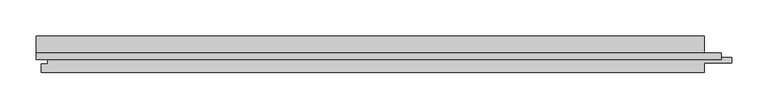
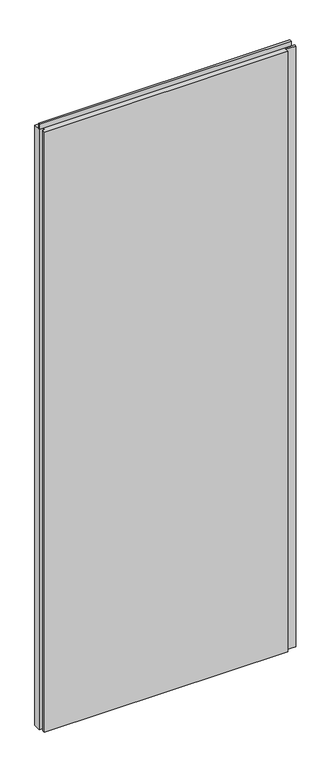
"""IFC4 building model written with IfcOpenShell, lengths in millimetres: plate geometry, Trimo_Qbiss Screen_Normal Panel-VERTICAL : HR - B."""

from ifc_helpers import new_model, si_unit, frame, origin, place, context, project, spatial, polyline, outline, extrude, source, transform, mapped, element, save


def plate_e0ff1487(model_context):
    return source(origin(), model_context, "Body", "SweptSolid", [
        extrude(outline(polyline([(448.3, 97.0), (448.3, 102.6), (469.3, 102.6), (469.3, 97.0), (448.3, 97.0)])), frame((0.0, 0.0, 12.5), z_axis=(0.0, 0.0, 1.0), x_axis=(1.0, 0.0, 0.0)), (0.0, 0.0, 1.0), 2375.0),
        extrude(outline(polyline([(-470.3, 93.9), (-470.3, 102.6), (470.3, 102.6), (470.3, 93.9), (-470.3, 93.9)])), frame((0.0, 0.0, 2390.5), z_axis=(0.0, 0.0, 1.0), x_axis=(1.0, 0.0, 0.0)), (0.0, 0.0, 1.0), 19.0),
        extrude(outline(polyline([(447.3, 97.0), (484.8, 97.0), (484.8, 89.0), (447.3, 89.0), (447.3, 76.0), (-463.3, 76.0), (-463.3, 88.0), (-454.8, 88.0), (-454.8, 98.0), (-470.3, 98.0), (-470.3, 126.0), (447.3, 126.0), (447.3, 97.0)])), frame((0.0, 0.0, 12.5), z_axis=(0.0, 0.0, 1.0), x_axis=(1.0, 0.0, 0.0)), (0.0, 0.0, 1.0), 2375.0),
    ])


if __name__ == "__main__":
    model = new_model("IFC4")
    model_context = context("Model", 3, world=origin())
    ifc_project = project(units=[si_unit("LENGTHUNIT", "METRE", prefix="MILLI")], contexts=[model_context])
    site = spatial("IfcSite", under=ifc_project)
    building = spatial("IfcBuilding", under=site)
    placement = place(None, origin())
    plate_shape = plate_e0ff1487(model_context)
    element("IfcPlate", 1, ObjectType="Trimo_Qbiss Screen_Normal Panel-VERTICAL : HR - B", at=placement, inside=building, context=model_context, shape_type="MappedRepresentation", body=[
        mapped(plate_shape, transform((0.0, 0.0, 0.0), x_axis=(1.0, 0.0, 0.0), y_axis=(0.0, 1.0, 0.0), z_axis=(0.0, 0.0, 1.0))),
    ])
    save(model, "model.ifc")
